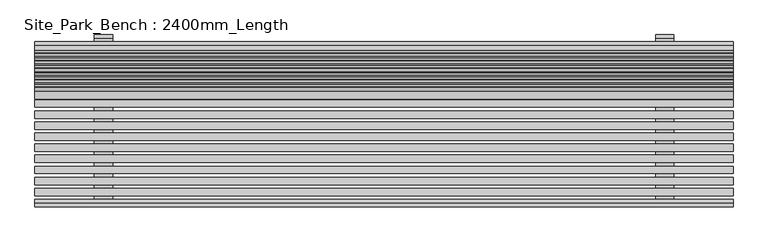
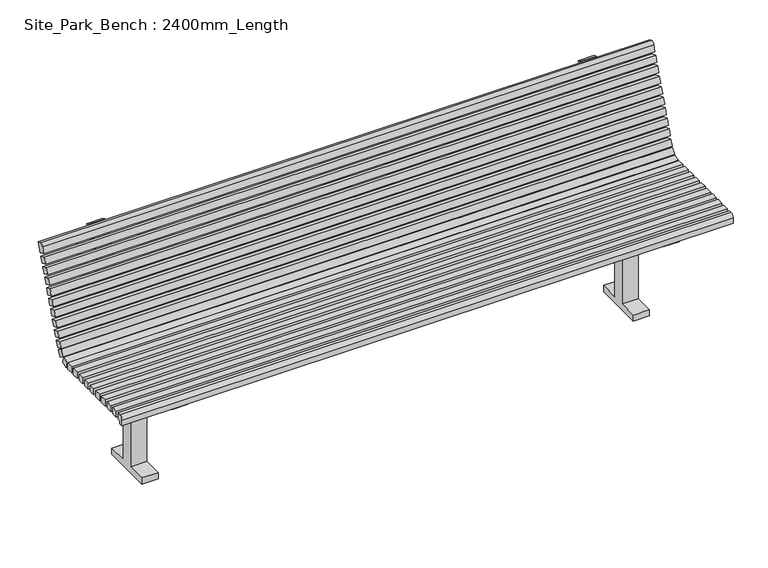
"""IFC4 building model written with IfcOpenShell, lengths in millimetres: geographic element geometry, Site_Park_Bench : 2400mm_Length."""

from ifc_helpers import new_model, si_unit, point, frame, frame_2d, origin, place, context, project, spatial, polyline, circle_curve, trimmed, segment, composite_curve, outline, extrude, source, transform, mapped, element, save


def site_park_bench_2400mm_length_ab530e1a(model_context):
    return source(origin(), model_context, "Body", "SweptSolid", [
        extrude(outline(polyline([(1200.0, -255.4337104), (1200.0, -280.8337104), (-1200.0, -280.8337104), (-1200.0, -255.4337104), (1200.0, -255.4337104)])), frame((0.0, 0.0, 457.2), z_axis=(0.0, 0.0, 1.0), x_axis=(1.0, 0.0, 0.0)), (0.0, 0.0, 1.0), 25.4),
        extrude(outline(polyline([(1200.0, -217.3337104), (1200.0, -242.7337104), (-1200.0, -242.7337104), (-1200.0, -217.3337104), (1200.0, -217.3337104)])), frame((0.0, 0.0, 457.2), z_axis=(0.0, 0.0, 1.0), x_axis=(1.0, 0.0, 0.0)), (0.0, 0.0, 1.0), 25.4),
        extrude(outline(polyline([(1200.0, -179.2337104), (1200.0, -204.6337104), (-1200.0, -204.6337104), (-1200.0, -179.2337104), (1200.0, -179.2337104)])), frame((0.0, 0.0, 457.2), z_axis=(0.0, 0.0, 1.0), x_axis=(1.0, 0.0, 0.0)), (0.0, 0.0, 1.0), 25.4),
        extrude(outline(polyline([(1200.0, -141.1337104), (1200.0, -166.5337104), (-1200.0, -166.5337104), (-1200.0, -141.1337104), (1200.0, -141.1337104)])), frame((0.0, 0.0, 457.2), z_axis=(0.0, 0.0, 1.0), x_axis=(1.0, 0.0, 0.0)), (0.0, 0.0, 1.0), 25.4),
        extrude(outline(polyline([(1200.0, -103.0337104), (1200.0, -128.4337104), (-1200.0, -128.4337104), (-1200.0, -103.0337104), (1200.0, -103.0337104)])), frame((0.0, 0.0, 457.2), z_axis=(0.0, 0.0, 1.0), x_axis=(1.0, 0.0, 0.0)), (0.0, 0.0, 1.0), 25.4),
        extrude(outline(polyline([(1200.0, -64.9337104), (1200.0, -90.3337104), (-1200.0, -90.3337104), (-1200.0, -64.9337104), (1200.0, -64.9337104)])), frame((0.0, 0.0, 457.2), z_axis=(0.0, 0.0, 1.0), x_axis=(1.0, 0.0, 0.0)), (0.0, 0.0, 1.0), 25.4),
        extrude(outline(polyline([(1200.0, -26.8337104), (1200.0, -52.2337104), (-1200.0, -52.2337104), (-1200.0, -26.8337104), (1200.0, -26.8337104)])), frame((0.0, 0.0, 457.2), z_axis=(0.0, 0.0, 1.0), x_axis=(1.0, 0.0, 0.0)), (0.0, 0.0, 1.0), 25.4),
        extrude(outline(polyline([(1200.0, 11.2662896), (1200.0, -14.1337104), (-1200.0, -14.1337104), (-1200.0, 11.2662896), (1200.0, 11.2662896)])), frame((0.0, 0.0, 457.2), z_axis=(0.0, 0.0, 1.0), x_axis=(1.0, 0.0, 0.0)), (0.0, 0.0, 1.0), 25.4),
        extrude(outline(polyline([(1200.0, 49.3662896), (1200.0, 23.9662896), (-1200.0, 23.9662896), (-1200.0, 49.3662896), (1200.0, 49.3662896)])), frame((0.0, 0.0, 457.2), z_axis=(0.0, 0.0, 1.0), x_axis=(1.0, 0.0, 0.0)), (0.0, 0.0, 1.0), 25.4),
        extrude(outline(composite_curve([segment(polyline([(-304.8, 457.2), (-304.8, 444.5), (-318.9337104, 444.5), (-318.9337104, 468.3125)]), True, "CONTINUOUS"), segment(trimmed(circle_curve(frame_2d((-304.6462104, 468.3125)), 14.2875), [point((-318.9337104, 468.3125))], [point((-304.6462104, 482.6))], False, "CARTESIAN"), True, "CONTINUOUS"), segment(polyline([(-304.6462104, 482.6), (-293.5337104, 482.6), (-293.5337104, 457.2), (-304.8, 457.2)]), True, "CONTINUOUS")], self_intersect=False)), frame((-1200.0, 0.0, 0.0), z_axis=(1.0, 0.0, 0.0), x_axis=(0.0, 1.0, 0.0)), (0.0, 0.0, 1.0), 2400.0),
        extrude(outline(polyline([(0.0, -25.4), (0.0, 0.0), (2400.0, 0.0), (2400.0, -25.4), (0.0, -25.4)])), frame((1200.0, 121.2738625, 585.5181247), z_axis=(0.0, 0.342020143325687, 0.9396926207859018), x_axis=(-1.0, 0.0, 0.0)), (0.0, 0.0, 1.0), 25.4),
        extrude(outline(polyline([(0.0, -25.4), (0.0, 0.0), (2400.0, 0.0), (2400.0, -25.4), (0.0, -25.4)])), frame((1200.0, 134.30483, 621.3204136), z_axis=(0.0, 0.34202014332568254, 0.9396926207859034), x_axis=(-1.0, 0.0, 0.0)), (0.0, 0.0, 1.0), 25.4),
        extrude(outline(polyline([(0.0, -25.3999999), (0.0, 0.0), (2400.0, 0.0), (2400.0, -25.3999999), (0.0, -25.3999999)])), frame((1200.0, 95.2119276, 513.913547), z_axis=(0.0, 0.34202014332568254, 0.9396926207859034), x_axis=(-1.0, 0.0, 0.0)), (0.0, 0.0, 1.0), 25.4),
        extrude(outline(polyline([(0.0, -25.4000001), (0.0, 0.0), (2400.0, 0.0), (2400.0, -25.4000001), (0.0, -25.4000001)])), frame((1200.0, 108.242895, 549.7158359), z_axis=(0.0, 0.34202014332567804, 0.9396926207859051), x_axis=(-1.0, 0.0, 0.0)), (0.0, 0.0, 1.0), 25.4),
        extrude(outline(polyline([(0.0, -25.4), (0.0, 0.0), (2400.0, 0.0), (2400.0, -25.4), (0.0, -25.4)])), frame((1200.0, 173.3977323, 728.7272801), z_axis=(0.0, 0.34202014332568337, 0.9396926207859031), x_axis=(-1.0, 0.0, 0.0)), (0.0, 0.0, 1.0), 25.4),
        extrude(outline(polyline([(0.0, -25.4000001), (0.0, 0.0), (2400.0, 0.0), (2400.0, -25.4000001), (0.0, -25.4000001)])), frame((1200.0, 186.4286998, 764.529569), z_axis=(0.0, 0.34202014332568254, 0.9396926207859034), x_axis=(-1.0, 0.0, 0.0)), (0.0, 0.0, 1.0), 25.4),
        extrude(outline(polyline([(0.0, -25.4), (0.0, 0.0), (2400.0, 0.0), (2400.0, -25.4), (0.0, -25.4)])), frame((1200.0, 147.3357974, 657.1227024), z_axis=(0.0, 0.3420201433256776, 0.9396926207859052), x_axis=(-1.0, 0.0, 0.0)), (0.0, 0.0, 1.0), 25.4),
        extrude(outline(polyline([(0.0, -25.4), (0.0, 0.0), (2400.0, 0.0), (2400.0, -25.4), (0.0, -25.4)])), frame((1200.0, 160.3667649, 692.9249913), z_axis=(0.0, 0.34202014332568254, 0.9396926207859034), x_axis=(-1.0, 0.0, 0.0)), (0.0, 0.0, 1.0), 25.4),
        extrude(outline(polyline([(0.0, -25.3999999), (0.0, 0.0), (2400.0, 0.0), (2400.0, -25.3999999), (0.0, -25.3999999)])), frame((1200.0, 199.4596673, 800.3318578), z_axis=(0.0, 0.3420201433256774, 0.9396926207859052), x_axis=(-1.0, 0.0, 0.0)), (0.0, 0.0, 1.0), 25.4),
        extrude(outline(composite_curve([segment(polyline([(249.3897948, 863.2491239), (236.3588273, 827.4468351), (212.4906347, 836.1341467), (221.1779464, 860.0023393)]), True, "CONTINUOUS"), segment(trimmed(circle_curve(frame_2d((233.1120426, 855.6586834)), 12.7), [point((221.1779464, 860.0023393))], [point((237.4556985, 867.5927797))], False, "CARTESIAN"), True, "CONTINUOUS"), segment(polyline([(237.4556985, 867.5927797), (249.3897948, 863.2491239)]), True, "CONTINUOUS")], self_intersect=False)), frame((-1200.0, 0.0, 0.0), z_axis=(1.0, 0.0, 0.0), x_axis=(0.0, 1.0, 0.0)), (0.0, 0.0, 1.0), 2400.0),
        extrude(outline(polyline([(0.0, -25.4), (0.0, 0.0), (2400.0, 0.0), (2400.0, -25.4), (0.0, -25.4)])), frame((1200.0, 78.7855779, 490.7267336), z_axis=(0.0, 0.5735764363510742, 0.8191520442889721), x_axis=(-1.0, 0.0, 0.0)), (0.0, 0.0, 1.0), 25.4),
        extrude(outline(polyline([(0.0, -25.4), (0.0, 0.0), (2400.0, 0.0), (2400.0, -25.4), (0.0, -25.4)])), frame((1200.0, 59.0817015, 457.2297909), z_axis=(0.0, -0.2588190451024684, 0.9659258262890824), x_axis=(-1.0, 0.0, 0.0)), (0.0, 0.0, 1.0), 25.4),
        extrude(outline(composite_curve([segment(polyline([(-101.6, 25.4), (-25.4, 25.4), (-25.4, 431.8), (-304.8, 431.8), (-304.8, 457.2), (57.1368213, 457.2)]), True, "CONTINUOUS"), segment(trimmed(circle_curve(frame_2d((57.1368213, 520.7)), 63.5), [point((57.1368213, 457.2))], [point((116.8073027, 498.9817209))], True, "CARTESIAN"), True, "CONTINUOUS"), segment(polyline([(116.8073027, 498.9817209), (244.9406421, 851.0251774)]), True, "CONTINUOUS"), segment(trimmed(circle_curve(frame_2d((256.8747384, 846.6815216)), 12.7), [point((244.9406421, 851.0251774))], [point((261.2183942, 858.6156178))], False, "CARTESIAN"), True, "CONTINUOUS"), segment(polyline([(261.2183942, 858.6156178), (273.1524905, 854.271962), (140.6754953, 490.2944093)]), True, "CONTINUOUS"), segment(trimmed(circle_curve(frame_2d((57.1368213, 520.7)), 88.9), [point((140.6754953, 490.2944093))], [point((57.1368213, 431.8))], False, "CARTESIAN"), True, "CONTINUOUS"), segment(polyline([(57.1368213, 431.8), (25.4, 431.8), (25.4, 25.4), (101.6, 25.4), (101.6, 0.0), (-101.6, 0.0), (-101.6, 25.4)]), True, "CONTINUOUS")], self_intersect=False)), frame((933.9736591, 0.0, 0.0), z_axis=(1.0, 0.0, 0.0), x_axis=(0.0, 1.0, 0.0)), (0.0, 0.0, 1.0), 62.8263409),
        extrude(outline(composite_curve([segment(polyline([(-101.6, 25.4), (-25.4, 25.4), (-25.4, 431.8), (-304.8, 431.8), (-304.8, 457.2), (57.1368213, 457.2)]), True, "CONTINUOUS"), segment(trimmed(circle_curve(frame_2d((57.1368213, 520.7)), 63.5), [point((57.1368213, 457.2))], [point((116.8073027, 498.9817209))], True, "CARTESIAN"), True, "CONTINUOUS"), segment(polyline([(116.8073027, 498.9817209), (244.9406421, 851.0251774)]), True, "CONTINUOUS"), segment(trimmed(circle_curve(frame_2d((256.8747384, 846.6815216)), 12.7), [point((244.9406421, 851.0251774))], [point((261.2183942, 858.6156178))], False, "CARTESIAN"), True, "CONTINUOUS"), segment(polyline([(261.2183942, 858.6156178), (273.1524905, 854.271962), (140.6754953, 490.2944093)]), True, "CONTINUOUS"), segment(trimmed(circle_curve(frame_2d((57.1368213, 520.7)), 88.9), [point((140.6754953, 490.2944093))], [point((57.1368213, 431.8))], False, "CARTESIAN"), True, "CONTINUOUS"), segment(polyline([(57.1368213, 431.8), (25.4, 431.8), (25.4, 25.4), (101.6, 25.4), (101.6, 0.0), (-101.6, 0.0), (-101.6, 25.4)]), True, "CONTINUOUS")], self_intersect=False)), frame((-996.8, 0.0, 0.0), z_axis=(1.0, 0.0, 0.0), x_axis=(0.0, 1.0, 0.0)), (0.0, 0.0, 1.0), 63.8916859),
    ])


if __name__ == "__main__":
    model = new_model("IFC4")
    model_context = context("Model", 3, world=origin())
    ifc_project = project(units=[si_unit("LENGTHUNIT", "METRE", prefix="MILLI")], contexts=[model_context])
    site = spatial("IfcSite", under=ifc_project)
    building = spatial("IfcBuilding", under=site)
    placement = place(None, origin())
    site_park_bench_2400mm_length_shape = site_park_bench_2400mm_length_ab530e1a(model_context)
    element("IfcGeographicElement", 1, ObjectType="Site_Park_Bench : 2400mm_Length", at=placement, inside=building, context=model_context, shape_type="MappedRepresentation", body=[
        mapped(site_park_bench_2400mm_length_shape, transform((0.0, 0.0, 0.0), x_axis=(1.0, 0.0, 0.0), y_axis=(0.0, 1.0, 0.0), z_axis=(0.0, 0.0, 1.0))),
    ])
    save(model, "model.ifc")
